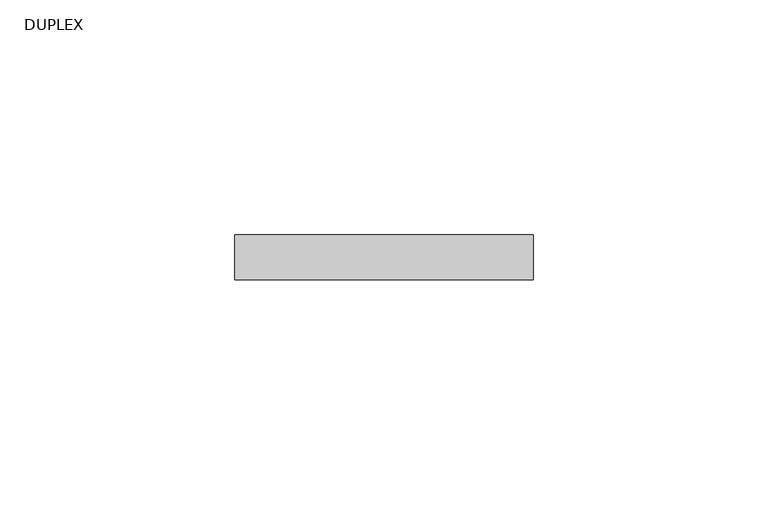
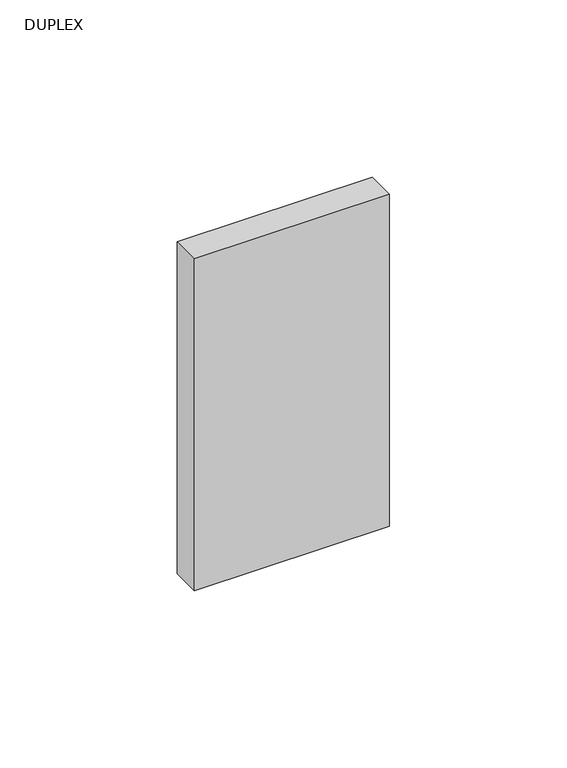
"""IFC4 building model written with IfcOpenShell, lengths in millimetres: proxy geometry, MAVRIK - ELEC - RECEPTACLE - WALL BASED : DUPLEX."""

import ifcopenshell
import ifcopenshell.guid

model = None  # the IFC model being written
_history = None  # IfcOwnerHistory: only IFC2X3 demands one
_inside = {}  # id of a spatial element -> (the spatial element, [elements in it])
_under = {}  # id of a project, library or spatial element -> (it, [spatial elements below it])
_declared = {}  # id of a project -> (the project, [libraries it declares])
_typed = {}  # id of a type object -> (the type object, [elements of that type])
_made_of = {}  # id of a material, layer set ... -> (it, [elements and type objects made of it])


def new_model(schema):
    """Start an empty IFC model of exactly this schema.

    Asked for "IFC4X3", IfcOpenShell would pick the latest addendum, in which some entities
    have other attributes; the version numbers below select the first issue.
    IFC2X3 requires an IfcOwnerHistory on every rooted entity: one is made here for all.
    """
    global model, _history
    if schema == "IFC4X3":
        model = ifcopenshell.file(schema_version=(4, 3, 0, 0))
    else:
        model = ifcopenshell.file(schema=schema)
    _inside.clear()
    _under.clear()
    _declared.clear()
    _typed.clear()
    _made_of.clear()
    _history = None
    if model.schema == "IFC2X3":
        org = make("IfcOrganization", Name="unknown")
        user = make(
            "IfcPersonAndOrganization",
            ThePerson=make("IfcPerson", FamilyName="unknown"),
            TheOrganization=org,
        )
        app = make(
            "IfcApplication",
            ApplicationDeveloper=org,
            Version="unknown",
            ApplicationFullName="unknown",
            ApplicationIdentifier="unknown",
        )
        _history = make(
            "IfcOwnerHistory",
            OwningUser=user,
            OwningApplication=app,
            ChangeAction="ADDED",
            CreationDate=0,
        )
    return model


def make(cls, **values):
    """One entity of the class cls with the attributes given. An attribute that is None is left unset."""
    return model.create_entity(
        cls, **{name: value for name, value in values.items() if value is not None}
    )


def rooted(cls, **values):
    """An entity with a GlobalId (a new one), such as an element, a storey or a relation."""
    return make(cls, GlobalId=ifcopenshell.guid.new(), OwnerHistory=_history, **values)


def si_unit(unit_type, name, prefix=None):
    """IfcSIUnit, for example si_unit("LENGTHUNIT", "METRE", prefix="MILLI")."""
    return make("IfcSIUnit", UnitType=unit_type, Prefix=prefix, Name=name)


def assignment(units):
    """IfcUnitAssignment: the units of a project."""
    return None if units is None else make("IfcUnitAssignment", Units=units)


def point(xyz):
    """IfcCartesianPoint."""
    return None if xyz is None else make("IfcCartesianPoint", Coordinates=xyz)


def direction(xyz):
    """IfcDirection."""
    return None if xyz is None else make("IfcDirection", DirectionRatios=xyz)


def frame(location, z_axis=None, x_axis=None):
    """IfcAxis2Placement3D, a coordinate frame: its origin and axes. An axis left out is left unset."""
    return make(
        "IfcAxis2Placement3D",
        Location=point(location),
        Axis=direction(z_axis),
        RefDirection=direction(x_axis),
    )


def origin():
    """The frame at (0, 0, 0) with its axes left unset."""
    return frame((0.0, 0.0, 0.0))


def place(relative_to, where):
    """IfcLocalPlacement: puts the frame where relative to a parent placement (None: the world)."""
    return make(
        "IfcLocalPlacement", PlacementRelTo=relative_to, RelativePlacement=where
    )


def context(
    kind, dimensions, precision=None, world=None, true_north=None, identifier=None
):
    """IfcGeometricRepresentationContext, for example the 3D "Model" context."""
    return make(
        "IfcGeometricRepresentationContext",
        ContextIdentifier=identifier,
        ContextType=kind,
        CoordinateSpaceDimension=dimensions,
        Precision=precision,
        WorldCoordinateSystem=world,
        TrueNorth=true_north,
    )


def project(units=None, contexts=None):
    """IfcProject with its units and contexts."""
    return rooted(
        "IfcProject",
        Name="project",
        RepresentationContexts=contexts,
        UnitsInContext=assignment(units),
    )


def spatial(cls, under=None, at=None, **own):
    """A site, building, storey or space (cls), placed at a placement, below another one or the project."""
    s = rooted(cls, ObjectPlacement=at, **own)
    if under is not None:
        _under.setdefault(under.id(), (under, []))[1].append(s)
    return s


def polyline(points):
    """IfcPolyline through the points."""
    return make("IfcPolyline", Points=[point(p) for p in points])


def outline(outer, holes=None, kind="AREA"):
    """IfcArbitraryClosedProfileDef: a profile drawn as a closed curve; with holes, ...WithVoids."""
    if holes is None:
        return make("IfcArbitraryClosedProfileDef", ProfileType=kind, OuterCurve=outer)
    return make(
        "IfcArbitraryProfileDefWithVoids",
        ProfileType=kind,
        OuterCurve=outer,
        InnerCurves=holes,
    )


def extrude(swept, where, along, depth):
    """IfcExtrudedAreaSolid: the profile swept, set in the frame where, extruded along a direction by depth."""
    return make(
        "IfcExtrudedAreaSolid",
        SweptArea=swept,
        Position=where,
        ExtrudedDirection=direction(along),
        Depth=depth,
    )


def shape(context_of_items, identifier, shape_type, items):
    """IfcShapeRepresentation: the items that make up one representation, for example the "Body"."""
    return make(
        "IfcShapeRepresentation",
        ContextOfItems=context_of_items,
        RepresentationIdentifier=identifier,
        RepresentationType=shape_type,
        Items=items,
    )


def source(mapping_origin, context_of_items, identifier, shape_type, items):
    """IfcRepresentationMap: a shape defined once, which mapped items show again and again."""
    return make(
        "IfcRepresentationMap",
        MappingOrigin=mapping_origin,
        MappedRepresentation=shape(context_of_items, identifier, shape_type, items),
    )


def transform(
    local_origin,
    x_axis=None,
    y_axis=None,
    z_axis=None,
    scale=None,
    scale2=None,
    scale3=None,
    uniform=True,
):
    """IfcCartesianTransformationOperator3D, or its non-uniform kind. x_axis, y_axis, z_axis: its Axis1, 2, 3."""
    if uniform:
        return make(
            "IfcCartesianTransformationOperator3D",
            Axis1=direction(x_axis),
            Axis2=direction(y_axis),
            LocalOrigin=point(local_origin),
            Scale=scale,
            Axis3=direction(z_axis),
        )
    return make(
        "IfcCartesianTransformationOperator3DnonUniform",
        Axis1=direction(x_axis),
        Axis2=direction(y_axis),
        LocalOrigin=point(local_origin),
        Scale=scale,
        Axis3=direction(z_axis),
        Scale2=scale2,
        Scale3=scale3,
    )


def mapped(mapping_source, mapping_target):
    """IfcMappedItem: shows the shape of a source again, moved by a transform."""
    return make(
        "IfcMappedItem", MappingSource=mapping_source, MappingTarget=mapping_target
    )


def made_of(thing, what):
    """Note that an element or type object is made of a material, layer set ...; save() writes the relation."""
    if what is not None:
        _made_of.setdefault(what.id(), (what, []))[1].append(thing)
    return thing


def element(
    cls,
    number,
    at=None,
    inside=None,
    cuts=None,
    type_object=None,
    material=None,
    context=None,
    identifier="Body",
    shape_type=None,
    held_by="IfcProductDefinitionShape",
    body=None,
    shapes=None,
    **own,
):
    """One element of the class cls, such as IfcWall. Its Tag is "e" and its number.

    at: its placement. inside: the storey or other place that contains it. cuts: it is an
    opening in that element (IfcRelVoidsElement). A single representation is given by context,
    identifier, shape_type and body (its items); several are given by shapes. held_by: the class
    of the entity that holds the representations. save() writes the other relations.
    """
    e = rooted(cls, Tag="e%d" % number, ObjectPlacement=at, **own)
    if body is not None:
        shapes = [shape(context, identifier, shape_type, body)]
    if shapes is not None:
        e.Representation = make(held_by, Representations=shapes)
    if inside is not None:
        _inside.setdefault(inside.id(), (inside, []))[1].append(e)
    if cuts is not None:
        rooted(
            "IfcRelVoidsElement", RelatingBuildingElement=cuts, RelatedOpeningElement=e
        )
    if type_object is not None:
        _typed.setdefault(type_object.id(), (type_object, []))[1].append(e)
    return made_of(e, material)


def aggregate(whole, parts):
    """IfcRelAggregates: a whole, such as a stair, and the parts it consists of."""
    return rooted("IfcRelAggregates", RelatingObject=whole, RelatedObjects=parts)


def save(model, path):
    """Write the relations noted so far, then the file.

    IfcRelAggregates (storeys below a building ...), IfcRelContainedInSpatialStructure (elements
    in a storey), IfcRelDefinesByType, IfcRelAssociatesMaterial and IfcRelDeclares: one each for
    every whole, place, type object, material and project.
    """
    for whole, parts in _under.values():
        aggregate(whole, parts)
    for where, things in _inside.values():
        rooted(
            "IfcRelContainedInSpatialStructure",
            RelatedElements=things,
            RelatingStructure=where,
        )
    for kind, things in _typed.values():
        rooted("IfcRelDefinesByType", RelatedObjects=things, RelatingType=kind)
    for what, things in _made_of.values():
        rooted("IfcRelAssociatesMaterial", RelatedObjects=things, RelatingMaterial=what)
    for by, libraries in _declared.values():
        rooted("IfcRelDeclares", RelatingContext=by, RelatedDefinitions=libraries)
    model.write(path)


def duplex_0637b5cd(model_context):
    return source(origin(), model_context, "Body", "SweptSolid", [
        extrude(outline(polyline([(51.59375, 38.1), (-11.90625, 38.1), (-11.90625, 47.625), (51.59375, 47.625), (51.59375, 38.1)])), frame((0.0, 0.0, 400.05), z_axis=(0.0, 0.0, 1.0), x_axis=(1.0, 0.0, 0.0)), (0.0, 0.0, 1.0), 114.3),
    ])


if __name__ == "__main__":
    model = new_model("IFC4")
    model_context = context("Model", 3, world=origin())
    ifc_project = project(units=[si_unit("LENGTHUNIT", "METRE", prefix="MILLI")], contexts=[model_context])
    site = spatial("IfcSite", under=ifc_project)
    building = spatial("IfcBuilding", under=site)
    placement = place(None, origin())
    duplex_shape = duplex_0637b5cd(model_context)
    element("IfcBuildingElementProxy", 1, Name="MAVRIK - ELEC - RECEPTACLE - WALL BASED : DUPLEX", ObjectType="MAVRIK - ELEC - RECEPTACLE - WALL BASED : DUPLEX", at=placement, inside=building, context=model_context, shape_type="MappedRepresentation", body=[
        mapped(duplex_shape, transform((0.0, 0.0, 0.0), x_axis=(1.0, 0.0, 0.0), y_axis=(0.0, 1.0, 0.0), z_axis=(0.0, 0.0, 1.0))),
    ])
    save(model, "model.ifc")
